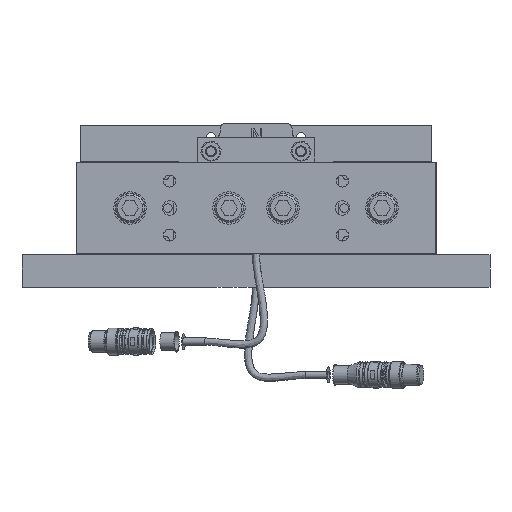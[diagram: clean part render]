
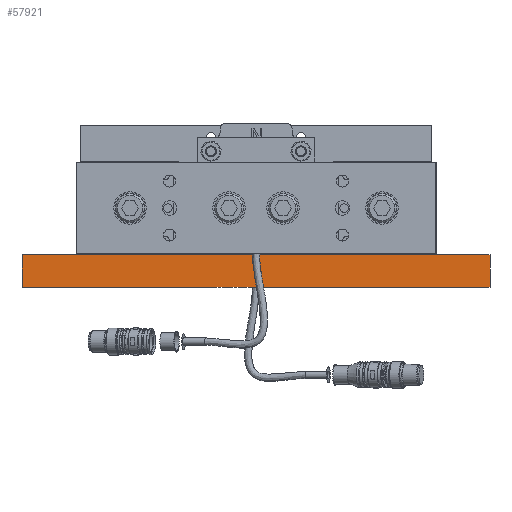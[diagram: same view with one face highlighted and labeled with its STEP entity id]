
A CAD part, front view. The second image highlights one B-rep face of the part: STEP entity #57921.
In plain terms, the highlighted planar face has unit normal (0, -1, 0).
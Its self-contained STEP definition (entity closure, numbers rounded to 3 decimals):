
#3418=PLANE('',#61460);
#5243=FACE_OUTER_BOUND('',#8586,.T.);
#8586=EDGE_LOOP('',(#37724,#37725,#37726,#37727));
#12530=LINE('',#80436,#17115);
#12563=LINE('',#80669,#17148);
#12566=LINE('',#80675,#17151);
#12567=LINE('',#80677,#17152);
#17115=VECTOR('',#66209,10.);
#17148=VECTOR('',#66478,10.);
#17151=VECTOR('',#66485,10.);
#17152=VECTOR('',#66488,10.);
#23747=VERTEX_POINT('',#80433);
#23748=VERTEX_POINT('',#80435);
#23829=VERTEX_POINT('',#80665);
#23831=VERTEX_POINT('',#80673);
#29267=EDGE_CURVE('',#23748,#23747,#12530,.T.);
#29378=EDGE_CURVE('',#23829,#23748,#12563,.T.);
#29381=EDGE_CURVE('',#23747,#23831,#12566,.T.);
#29382=EDGE_CURVE('',#23831,#23829,#12567,.T.);
#37724=ORIENTED_EDGE('',*,*,#29382,.T.);
#37725=ORIENTED_EDGE('',*,*,#29378,.T.);
#37726=ORIENTED_EDGE('',*,*,#29267,.T.);
#37727=ORIENTED_EDGE('',*,*,#29381,.T.);
#57921=ADVANCED_FACE('',(#5243),#3418,.T.);
#61460=AXIS2_PLACEMENT_3D('',#80676,#66486,#66487);
#66209=DIRECTION('',(1.,0.,0.));
#66478=DIRECTION('',(0.,0.,-1.));
#66485=DIRECTION('',(0.,0.,1.));
#66486=DIRECTION('center_axis',(0.,-1.,0.));
#66487=DIRECTION('ref_axis',(0.,0.,-1.));
#66488=DIRECTION('',(-1.,0.,0.));
#80433=CARTESIAN_POINT('',(130.,-69.85,-9.));
#80435=CARTESIAN_POINT('',(-130.,-69.85,-9.));
#80436=CARTESIAN_POINT('',(-130.,-69.85,-9.));
#80665=CARTESIAN_POINT('',(-130.,-69.85,9.));
#80669=CARTESIAN_POINT('',(-130.,-69.85,0.));
#80673=CARTESIAN_POINT('',(130.,-69.85,9.));
#80675=CARTESIAN_POINT('',(130.,-69.85,0.));
#80676=CARTESIAN_POINT('Origin',(130.,-69.85,0.));
#80677=CARTESIAN_POINT('',(-130.,-69.85,9.));
